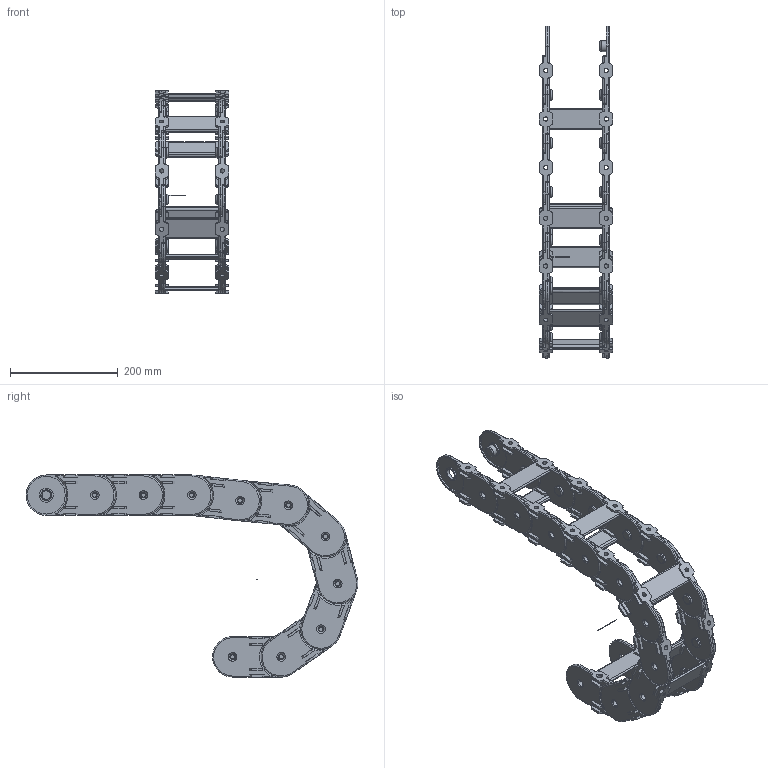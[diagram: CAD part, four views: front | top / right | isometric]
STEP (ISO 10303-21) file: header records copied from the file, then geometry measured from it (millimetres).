
FILE_DESCRIPTION((''),'2;1');
FILE_NAME('C:\Uebbing\TRACE PARTS\PKK\PKK 320\PKK 320 vereinfacht.stp','2013-06-10T09:12:35',('Uebbing'),(''),'Autodesk Inventor 10','Autodesk Inventor 10','');
FILE_SCHEMA(('AUTOMOTIVE_DESIGN { 1 0 10303 214 1 1 1 1 }'));
Length unit declared in the file: millimetre
Products named in the file (4): PKK 320 vereinfacht; PKK320 Glied vereinfacht; Achse; PKK320 Glied ohne Steg vereinfacht
Assembly tree (11 placements, depth 2):
  PKK 320 vereinfacht
    PKK320 Glied vereinfacht  x5
    Achse
    PKK320 Glied ohne Steg vereinfacht  x5
Bounding box: 136 x 615.52 x 375 mm (x, y, z)
Volume: 1500167.9 mm3; surface area: 731661.8 mm2
Topology: 16 solids, 16 shells, 1953 faces, 5104 edges, 3213 vertices
Faces by surface type: plane 722, cylinder 511, bspline 420, torus 220, sphere 80
Full cylindrical faces by diameter (mm): 1 x1, 8 x20, 12 x20, 20 x20, 20.2 x20, 26 x40, 70 x40
Entity records: 13169 total; most frequent: CARTESIAN_POINT 3716, ORIENTED_EDGE 1908, DIRECTION 1886, EDGE_CURVE 954, AXIS2_PLACEMENT_3D 654, VERTEX_POINT 640, VECTOR 578, LINE 578
